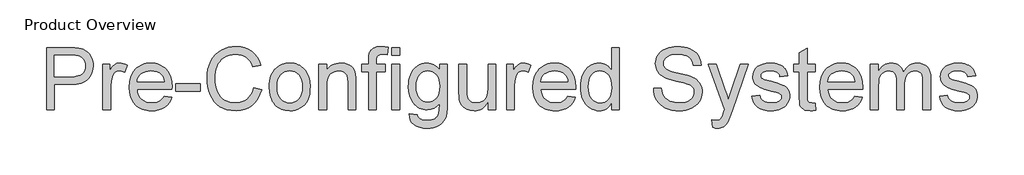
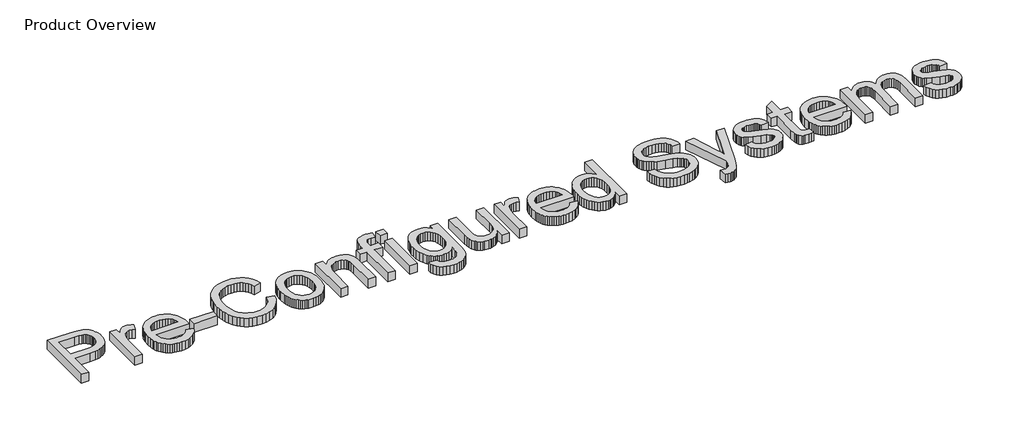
# One storey, part 7 of 12: 1 proxy.
"""IFC4 building model written with IfcOpenShell, lengths in millimetres."""

from ifc_helpers import new_model, si_unit, origin, origin_with_axes, place, context, project, spatial, polyline, outline, extrude, element, save

model = new_model("IFC4")

# Units and contexts
model_context = context("Model", 3, world=origin())
ifc_project = project(units=[si_unit("LENGTHUNIT", "METRE", prefix="MILLI")], contexts=[model_context])

# Site, building, storey
site = spatial("IfcSite", under=ifc_project)
building = spatial("IfcBuilding", under=site)
storey = spatial("IfcBuildingStorey", under=building, Name="Product Overview", Elevation=0.0)

# Proxy
placement = place(None, origin())
element("IfcBuildingElementProxy", 1, Name="1000mm", ObjectType="1000mm", at=placement, inside=storey, context=model_context, shape_type="SweptSolid", body=[
    extrude(outline(polyline([(-16820.7783514, -8842.1412799), (-16820.7783514, -7862.7473405), (-16457.8096014, -7862.7473405), (-16373.28427, -7865.0786615), (-16311.4743742, -7872.0726246), (-16277.4086929, -7879.4177802), (-16246.2272743, -7889.4977548), (-16217.9301181, -7902.3125482), (-16192.5172245, -7917.8621606), (-16169.7195949, -7936.4678957), (-16149.2682307, -7958.4510573), (-16131.1631319, -7983.8116457), (-16115.4042984, -8012.5496606), (-16102.6418102, -8043.7161349), (-16093.5257473, -8076.3621014), (-16088.0561095, -8110.4875601), (-16086.2328969, -8146.0925109), (-16091.1570653, -8206.2136935), (-16105.9295707, -8261.5227903), (-16130.5504129, -8312.0198014), (-16165.019592, -8357.7047269), (-16186.6982622, -8377.9917031), (-16212.3409254, -8395.5737491), (-16241.9475816, -8410.450865), (-16275.5182307, -8422.6230507), (-16313.0528728, -8432.0903063), (-16354.5515078, -8438.8526317), (-16449.4407567, -8444.262492), (-16698.354109, -8444.262492), (-16698.354109, -8842.1412799), (-16820.7783514, -8842.1412799)]), holes=[polyline([(-16698.354109, -8321.8382496), (-16442.2674613, -8321.8382496), (-16383.3866611, -8319.0287089), (-16333.7115901, -8310.6000867), (-16293.2422482, -8296.5523831), (-16261.9786355, -8276.8855981), (-16238.6504809, -8252.1227844), (-16221.9875134, -8222.7869948), (-16211.9897328, -8188.8782295), (-16208.6571393, -8150.3964882), (-16210.6223234, -8121.8228613), (-16216.5178756, -8095.4012231), (-16226.3437959, -8071.1315734), (-16240.1000844, -8049.0139125), (-16257.0544671, -8029.7655697), (-16276.4746701, -8014.1038746), (-16298.3606934, -8002.0288272), (-16322.712537, -7993.5404276), (-16369.9367321, -7987.2637941), (-16445.1367795, -7985.1715829), (-16698.354109, -7985.1715829), (-16698.354109, -8321.8382496)])]), origin_with_axes(), (0.0, 0.0, 1.0), 150.0),
    extrude(outline(polyline([(-15933.2025939, -8842.1412799), (-15933.2025939, -8122.8988556), (-15826.0813817, -8122.8988556), (-15826.0813817, -8229.3027382), (-15786.5087018, -8167.6123973), (-15767.8880224, -8146.2718433), (-15750.0444499, -8131.2677003), (-15713.4606431, -8113.5137941), (-15673.5292984, -8107.5958253), (-15643.1623476, -8109.9570351), (-15612.556287, -8117.0406644), (-15581.7111166, -8128.8467131), (-15550.6268363, -8145.3751814), (-15591.5146204, -8255.1266019), (-15634.5543931, -8236.2967013), (-15677.5941658, -8230.0200678), (-15714.1480839, -8236.0575914), (-15746.816467, -8254.1701625), (-15773.2082165, -8282.9828992), (-15790.932234, -8321.12092), (-15805.8168221, -8389.5063367), (-15810.7783514, -8464.1086094), (-15810.7783514, -8842.1412799), (-15933.2025939, -8842.1412799)])), origin_with_axes(), (0.0, 0.0, 1.0), 150.0),
    extrude(outline(polyline([(-14970.5463439, -8627.8988556), (-14850.5131999, -8643.2018859), (-14868.9171861, -8691.2779099), (-14893.7621938, -8733.6451861), (-14925.048223, -8770.3037148), (-14962.7752738, -8801.2534958), (-15006.5547926, -8825.8369771), (-15055.998226, -8843.3966066), (-15111.1055739, -8853.9323843), (-15171.8768363, -8857.4443102), (-15210.8928386, -8855.9293251), (-15247.8390463, -8851.38437), (-15282.7154593, -8843.8094447), (-15315.5220778, -8833.2045493), (-15346.2589016, -8819.5696838), (-15374.9259307, -8802.9048482), (-15401.5231653, -8783.2100425), (-15426.0506052, -8760.4852666), (-15448.0748639, -8735.0256719), (-15467.1625548, -8707.1264095), (-15483.3136778, -8676.7874794), (-15496.5282331, -8644.0088817), (-15506.8062205, -8608.7906163), (-15514.14764, -8571.1326832), (-15520.0207757, -8488.497814), (-15514.0878626, -8403.0608762), (-15506.6717212, -8364.1420123), (-15496.2891232, -8327.7562183), (-15482.9400687, -8293.9034943), (-15466.6245576, -8262.5838403), (-15447.34259, -8233.7972561), (-15425.0941658, -8207.543742), (-15400.4807958, -8184.118449), (-15374.1039906, -8163.8165285), (-15345.9637503, -8146.6379803), (-15316.0600749, -8132.5828045), (-15284.3929644, -8121.6510011), (-15250.9624187, -8113.8425701), (-15215.7684378, -8109.1575115), (-15178.8110219, -8107.5958253), (-15143.0622315, -8109.1537754), (-15108.9834739, -8113.8276258), (-15076.5747492, -8121.6173763), (-15045.8360574, -8132.523027), (-15016.7673984, -8146.544578), (-14989.3687722, -8163.6820292), (-14963.6401789, -8183.9353806), (-14939.5816185, -8207.3046322), (-14917.8095459, -8233.4983688), (-14898.9404164, -8262.2251755), (-14882.9742299, -8293.4850521), (-14869.9109864, -8327.2779986), (-14859.7506859, -8363.6040151), (-14852.4933284, -8402.4631016), (-14846.6874423, -8487.7804844), (-14847.4047719, -8520.7776435), (-15397.5965333, -8520.7776435), (-15390.5054318, -8569.6307744), (-15376.4054229, -8612.416493), (-15355.2965066, -8649.1347991), (-15327.1786829, -8679.7856928), (-15293.6061657, -8703.9507318), (-15256.1331691, -8721.211474), (-15214.7596932, -8731.5679193), (-15169.4857378, -8735.0200678), (-15135.6218055, -8733.4210207), (-15104.3283041, -8728.6238793), (-15075.6052335, -8720.6286438), (-15049.4525939, -8709.435314), (-15025.870385, -8694.7450027), (-15004.8586071, -8676.2588225), (-14986.41726, -8653.9767735), (-14970.5463439, -8627.8988556)]), holes=[polyline([(-15397.5965333, -8398.3534011), (-14969.1116848, -8398.3534011), (-14975.4032627, -8363.7123618), (-14985.6700418, -8333.6741871), (-14999.9120221, -8308.2388769), (-15018.1292037, -8287.4064314), (-15051.5149163, -8262.2998973), (-15089.5034935, -8244.3666587), (-15132.0949352, -8233.6067155), (-15179.2892416, -8230.0200678), (-15222.3364865, -8232.8819138), (-15261.812028, -8241.4674518), (-15297.7158662, -8255.7766818), (-15330.0480011, -8275.8096037), (-15357.1794967, -8300.6396671), (-15377.4814172, -8329.3403211), (-15390.9537628, -8361.9115657), (-15397.5965333, -8398.3534011)])]), origin_with_axes(), (0.0, 0.0, 1.0), 150.0),
    extrude(outline(polyline([(-14785.4753211, -8551.3837041), (-14785.4753211, -8428.9594617), (-14402.8995636, -8428.9594617), (-14402.8995636, -8551.3837041), (-14785.4753211, -8551.3837041)])), origin_with_axes(), (0.0, 0.0, 1.0), 150.0),
    extrude(outline(polyline([(-13561.2328969, -8493.9973405), (-13438.8086545, -8525.5598405), (-13463.033471, -8601.6939107), (-13495.2983562, -8668.2187538), (-13535.60331, -8725.13437), (-13583.9483325, -8772.440759), (-13639.242485, -8809.6298127), (-13700.3948287, -8836.1934224), (-13767.4053637, -8852.1315882), (-13840.2740901, -8857.4443102), (-13914.9286681, -8853.4242759), (-13982.2754513, -8841.3641729), (-14042.3144399, -8821.2640012), (-14095.0456336, -8793.1237609), (-14141.1938344, -8757.3618942), (-14181.4838439, -8714.3968433), (-14215.915662, -8664.2286082), (-14244.4892889, -8606.857189), (-14266.9282538, -8544.7633502), (-14282.9560858, -8480.4278566), (-14292.572785, -8413.8507082), (-14295.7783514, -8345.0319049), (-14292.1543428, -8271.1917948), (-14281.2823169, -8202.2235479), (-14263.1622737, -8138.1271641), (-14237.7942132, -8078.9026435), (-14205.7460213, -8025.528842), (-14167.5855839, -7978.9846156), (-14123.312901, -7939.2699642), (-14072.9279726, -7906.3848878), (-14018.1419286, -7880.5983851), (-13960.6658988, -7862.1794546), (-13900.4998832, -7851.1280963), (-13837.6438817, -7847.4443102), (-13767.622057, -7852.2115628), (-13703.4135905, -7866.5133206), (-13645.0184822, -7890.3495836), (-13592.4367321, -7923.7203519), (-13546.5351134, -7965.7439077), (-13508.1803993, -8015.5385337), (-13477.3725897, -8073.1042297), (-13454.1116848, -8138.4409958), (-13576.5359272, -8167.6123973), (-13595.8141587, -8119.4691238), (-13618.9779253, -8078.3347576), (-13646.0272269, -8044.2092989), (-13676.9620636, -8017.0927477), (-13711.9617676, -7996.4321623), (-13751.2056715, -7981.6746014), (-13794.6937752, -7972.8200648), (-13842.4260787, -7969.8685526), (-13897.346622, -7973.1413687), (-13947.5746346, -7982.9598168), (-13993.1101163, -7999.3238971), (-14033.9530673, -8022.2336094), (-14069.5879069, -8050.6577927), (-14099.4990546, -8083.5652856), (-14123.6865102, -8120.9560881), (-14142.1502738, -8162.8302003), (-14155.8019517, -8207.2896878), (-14165.5531502, -8252.4366161), (-14171.4038693, -8298.2709851), (-14173.354109, -8344.792795), (-14171.0452045, -8403.255153), (-14164.1184911, -8457.8917534), (-14152.5739687, -8508.7025962), (-14136.4116374, -8555.6876814), (-14115.3699708, -8597.9129862), (-14089.1874423, -8634.4444877), (-14057.8640522, -8665.282186), (-14021.3998003, -8690.426081), (-13981.565594, -8709.9359502), (-13940.1323405, -8723.8715711), (-13897.10004, -8732.2329436), (-13852.4686923, -8735.0200678), (-13799.2443345, -8731.2241989), (-13750.2791208, -8719.8365924), (-13705.5730514, -8700.8572482), (-13665.1261261, -8674.2861662), (-13629.8947843, -8640.2429016), (-13600.8354655, -8598.847009), (-13577.9481697, -8550.0984887), (-13561.2328969, -8493.9973405)])), origin_with_axes(), (0.0, 0.0, 1.0), 150.0),
    extrude(outline(polyline([(-13316.384412, -8482.5200678), (-13314.7293236, -8434.3356972), (-13309.7640581, -8389.3718374), (-13301.4886157, -8347.6284884), (-13289.9029963, -8309.1056501), (-13275.0072, -8273.8033227), (-13256.8012267, -8241.721506), (-13235.2850764, -8212.8602), (-13210.4587492, -8187.2194049), (-13163.80244, -8152.3840888), (-13112.3041564, -8127.5017202), (-13055.9638983, -8112.5722991), (-12994.7816658, -8107.5958253), (-12927.2406058, -8113.6557656), (-12895.8966672, -8121.2306908), (-12866.1704561, -8131.8355862), (-12838.0619726, -8145.4704517), (-12811.5712166, -8162.1352873), (-12786.6981882, -8181.8300931), (-12763.4428874, -8204.5548689), (-12742.3993527, -8229.9509501), (-12724.1616226, -8257.6596718), (-12708.7296972, -8287.6810341), (-12696.1035763, -8320.015037), (-12686.2832601, -8354.6616804), (-12679.2687486, -8391.6209644), (-12673.6571393, -8472.4774541), (-12676.137904, -8538.008497), (-12683.580198, -8596.1570233), (-12695.9840214, -8646.923033), (-12713.3493742, -8690.3065261), (-12735.459563, -8727.7795227), (-12762.0978945, -8760.8140427), (-12793.2643688, -8789.4100861), (-12828.9589859, -8813.567653), (-12867.7919197, -8832.7636905), (-12908.3733443, -8846.4751459), (-12950.7032597, -8854.7020191), (-12994.7816658, -8857.4443102), (-13063.309054, -8851.4067865), (-13094.9892408, -8843.8598819), (-13124.9470896, -8833.2942155), (-13153.1826002, -8819.7097872), (-13179.6957727, -8803.1065971), (-13204.4866071, -8783.4846452), (-13227.5551033, -8760.8439314), (-13248.3744726, -8735.3637882), (-13266.4179259, -8707.2235479), (-13281.6854633, -8676.4232105), (-13294.1770849, -8642.9627761), (-13303.8927905, -8606.8422446), (-13310.8325802, -8568.0616161), (-13316.384412, -8482.5200678)]), holes=[polyline([(-13193.9601696, -8482.2809579), (-13190.418355, -8541.6623943), (-13179.7929111, -8593.078484), (-13162.0838379, -8636.5292267), (-13137.2911355, -8672.0146227), (-13107.1334059, -8699.5795049), (-13073.3292511, -8719.2687065), (-13035.878671, -8731.0822274), (-12994.7816658, -8735.0200678), (-12953.8938817, -8731.0598109), (-12916.5927454, -8719.1790403), (-12882.8782567, -8699.377756), (-12852.7504158, -8671.6559579), (-12827.9577134, -8635.8193694), (-12810.2486403, -8591.6737136), (-12799.6231964, -8539.2189906), (-12796.0813817, -8478.4552003), (-12799.6456129, -8420.956754), (-12810.3383065, -8370.8856573), (-12828.1594623, -8328.2419102), (-12853.1090806, -8293.0255128), (-12883.3490042, -8265.4606306), (-12917.0410763, -8245.771429), (-12954.1852969, -8233.9579081), (-12994.7816658, -8230.0200678), (-13035.878671, -8233.9429637), (-13073.3292511, -8245.7116516), (-13107.1334059, -8265.3261313), (-13137.2911355, -8292.786403), (-13162.0838379, -8328.1671884), (-13179.7929111, -8371.5432093), (-13190.418355, -8422.9144658), (-13193.9601696, -8482.2809579)])]), origin_with_axes(), (0.0, 0.0, 1.0), 150.0),
    extrude(outline(polyline([(-12535.9298666, -8842.1412799), (-12535.9298666, -8122.8988556), (-12413.5056242, -8122.8988556), (-12413.5056242, -8223.324992), (-12393.3083141, -8196.2009686), (-12370.9739599, -8172.6934816), (-12346.5025613, -8152.8025311), (-12319.8941185, -8136.528117), (-12291.1486314, -8123.8702394), (-12260.2661, -8114.8288983), (-12227.2465244, -8109.4040936), (-12192.0899045, -8107.5958253), (-12131.7445565, -8113.4241279), (-12076.4802927, -8130.9090356), (-12051.7772565, -8143.477247), (-12030.3918694, -8157.868671), (-12012.3241315, -8174.0833076), (-11997.5740427, -8192.1211568), (-11975.3069381, -8233.5768268), (-11960.870681, -8282.1460147), (-11956.0287065, -8328.5931028), (-11954.4147151, -8400.5053897), (-11954.4147151, -8842.1412799), (-12076.8389575, -8842.1412799), (-12076.8389575, -8417.0039693), (-12080.3658278, -8353.6996369), (-12090.9464386, -8308.6872079), (-12099.3526442, -8291.6581034), (-12110.4637799, -8276.4372671), (-12140.800842, -8251.4203992), (-12179.6860811, -8235.3701506), (-12224.8479537, -8230.0200678), (-12262.022063, -8233.0238852), (-12296.5510195, -8242.0353376), (-12328.4348234, -8257.054425), (-12357.6734745, -8278.0811473), (-12382.10004, -8307.506603), (-12399.5475868, -8347.7218907), (-12410.0161148, -8398.7270102), (-12413.5056242, -8460.5219617), (-12413.5056242, -8842.1412799), (-12535.9298666, -8842.1412799)])), origin_with_axes(), (0.0, 0.0, 1.0), 150.0),
    extrude(outline(polyline([(-11755.4753211, -8842.1412799), (-11755.4753211, -8245.3230981), (-11862.5965333, -8245.3230981), (-11862.5965333, -8122.8988556), (-11755.4753211, -8122.8988556), (-11755.4753211, -8050.4485715), (-11752.2473382, -7990.491777), (-11742.5633893, -7948.3486662), (-11731.9230011, -7926.9333904), (-11717.9350749, -7907.6402145), (-11700.5996109, -7890.4691385), (-11679.916609, -7875.4201625), (-11655.4377383, -7863.1807271), (-11626.7146677, -7854.4382733), (-11593.7473974, -7849.192801), (-11556.5359272, -7847.4443102), (-11503.3937634, -7850.7918481), (-11444.8716279, -7860.8344617), (-11462.8048666, -7975.607189), (-11533.3422719, -7969.8685526), (-11579.8790261, -7974.9496369), (-11597.1621849, -7981.3009922), (-11610.455198, -7990.1928897), (-11620.3408958, -8002.55188), (-11627.4021085, -8019.3045138), (-11631.6388362, -8040.450791), (-11633.0510787, -8065.9907117), (-11633.0510787, -8122.8988556), (-11495.323806, -8122.8988556), (-11495.323806, -8245.3230981), (-11633.0510787, -8245.3230981), (-11633.0510787, -8842.1412799), (-11755.4753211, -8842.1412799)])), origin_with_axes(), (0.0, 0.0, 1.0), 150.0),
    extrude(outline(polyline([(-11388.2025939, -8842.1412799), (-11388.2025939, -8122.8988556), (-11265.7783514, -8122.8988556), (-11265.7783514, -8842.1412799), (-11388.2025939, -8842.1412799)])), origin_with_axes(), (0.0, 0.0, 1.0), 150.0),
    extrude(outline(polyline([(-11388.2025939, -7985.1715829), (-11388.2025939, -7862.7473405), (-11265.7783514, -7862.7473405), (-11265.7783514, -7985.1715829), (-11388.2025939, -7985.1715829)])), origin_with_axes(), (0.0, 0.0, 1.0), 150.0),
    extrude(outline(polyline([(-11112.7480484, -8903.3534011), (-10990.323806, -8918.6564314), (-10985.1530555, -8939.2796558), (-10976.8140995, -8956.9140072), (-10965.3069381, -8971.5594854), (-10950.6315711, -8983.2160905), (-10926.8849743, -8995.1416942), (-10899.1631762, -9003.6599825), (-10867.466177, -9008.7709555), (-10831.7939764, -9010.4746132), (-10793.5662894, -9008.5467901), (-10759.941467, -9002.7633206), (-10730.9195091, -8993.1242048), (-10706.5004158, -8979.6294428), (-10686.1760787, -8962.6526435), (-10669.4383893, -8942.5674162), (-10656.2873476, -8919.3737609), (-10646.7229537, -8893.0716776), (-10640.0876554, -8840.4077335), (-10638.354109, -8750.3230981), (-10679.0924494, -8790.4935526), (-10724.5532094, -8819.1867344), (-10774.7363888, -8836.4026435), (-10829.6419878, -8842.1412799), (-10864.2064372, -8840.471247), (-10896.7646056, -8835.4611485), (-10927.3164929, -8827.1109843), (-10955.8620991, -8815.4207543), (-10982.4014242, -8800.3904587), (-11006.9344683, -8782.0200974), (-11029.4612313, -8760.3096703), (-11049.9817132, -8735.2591776), (-11084.1370606, -8679.1580294), (-11108.5337373, -8617.7366871), (-11123.1717434, -8550.9951506), (-11128.0510787, -8478.93342), (-11125.8617292, -8428.5186029), (-11119.2936805, -8380.0913864), (-11108.3469328, -8333.6517705), (-11093.0214859, -8289.1997553), (-11073.5489776, -8248.2148328), (-11050.1610456, -8212.1764953), (-11022.8576897, -8181.0847428), (-10991.6389101, -8154.9395753), (-10957.005343, -8134.2266847), (-10919.4576246, -8119.4317628), (-10878.995755, -8110.5548097), (-10835.619734, -8107.5958253), (-10806.3325137, -8109.2695943), (-10778.3678697, -8114.2909011), (-10751.725802, -8122.6597458), (-10726.4063107, -8134.3761284), (-10702.4093958, -8149.4400488), (-10679.7350572, -8167.8515072), (-10658.3832949, -8189.6105034), (-10638.354109, -8214.7170375), (-10638.354109, -8122.8988556), (-10515.9298666, -8122.8988556), (-10515.9298666, -8743.8671322), (-10518.0220778, -8821.6749713), (-10524.2987113, -8887.2433751), (-10534.7597672, -8940.5723434), (-10549.4052454, -8981.6618765), (-10568.5863385, -9014.801007), (-10592.6542392, -9044.278768), (-10621.6089474, -9070.0951595), (-10655.4504632, -9092.2501814), (-10693.835066, -9110.0339764), (-10736.4190356, -9122.7366871), (-10783.2023719, -9130.3583135), (-10834.1850749, -9132.8988556), (-10894.164286, -9129.3196801), (-10948.091029, -9118.5821535), (-10995.965304, -9100.6862757), (-11037.7871109, -9075.6320469), (-11071.5688492, -9043.3895783), (-11095.3229182, -9003.9289811), (-11109.0493179, -8957.2502554), (-11112.7480484, -8903.3534011)]), holes=[polyline([(-11005.6268363, -8470.5645753), (-11002.3614924, -8531.0967279), (-10992.5654608, -8582.8565379), (-10976.2387415, -8625.8440054), (-10953.3813344, -8660.0591303), (-10925.5922867, -8686.1594647), (-10894.4706455, -8704.8025607), (-10860.0164107, -8715.9884183), (-10822.2295825, -8719.7170375), (-10784.8163634, -8716.0108348), (-10750.5265167, -8704.8922269), (-10719.3600424, -8686.3612136), (-10691.3169404, -8660.417795), (-10668.1457017, -8626.5389184), (-10651.5948169, -8584.2015308), (-10641.664286, -8533.4056324), (-10638.354109, -8474.1512231), (-10641.7614243, -8417.3701062), (-10651.9833704, -8368.0163391), (-10669.0199471, -8326.0899216), (-10692.8711545, -8291.5908537), (-10721.5195032, -8264.6536349), (-10752.9475039, -8245.4127643), (-10787.1551566, -8233.8682419), (-10824.1424613, -8230.0200678), (-10860.5095748, -8233.8084644), (-10894.0522032, -8245.1736544), (-10924.7703466, -8264.1156377), (-10952.6640048, -8290.6344144), (-10975.8352436, -8324.6104294), (-10992.3861284, -8365.9241279), (-11002.3166593, -8414.5755099), (-11005.6268363, -8470.5645753)])]), origin_with_axes(), (0.0, 0.0, 1.0), 150.0),
    extrude(outline(polyline([(-9873.2025939, -8842.1412799), (-9873.2025939, -8718.5214882), (-9894.4385373, -8751.0815246), (-9917.4976933, -8779.3002228), (-9942.3800619, -8803.1775829), (-9969.0856431, -8822.7136047), (-9997.6144369, -8837.9082883), (-10027.9664433, -8848.7616338), (-10060.1416623, -8855.2736411), (-10094.1400939, -8857.4443102), (-10153.7681123, -8851.347009), (-10182.0353797, -8843.7253826), (-10209.2714859, -8833.0551056), (-10255.8381289, -8805.5574731), (-10273.9656443, -8789.4773358), (-10288.6559556, -8771.8429844), (-10310.7437279, -8730.8954229), (-10325.1202075, -8681.6985715), (-10330.5001791, -8635.3112609), (-10332.2935029, -8567.8822837), (-10332.2935029, -8122.8988556), (-10209.8692605, -8122.8988556), (-10209.8692605, -8510.2568102), (-10208.0161592, -8587.7284011), (-10202.4568552, -8635.0721511), (-10195.1266439, -8657.1375068), (-10184.6132828, -8676.7071535), (-10170.9167718, -8693.7810911), (-10154.0371109, -8708.3593197), (-10134.4824086, -8720.023397), (-10112.7607733, -8728.3548807), (-10088.872205, -8733.353771), (-10062.8167037, -8735.0200678), (-10035.9840954, -8733.3164101), (-10010.0033159, -8728.2054371), (-9984.8743653, -8719.6871487), (-9960.5972435, -8707.761545), (-9938.4870547, -8692.8993735), (-9919.858903, -8675.5713817), (-9904.7127886, -8655.7775695), (-9893.0487113, -8633.5179371), (-9884.3660349, -8607.3727696), (-9878.1641232, -8575.9223523), (-9873.2025939, -8497.1057685), (-9873.2025939, -8122.8988556), (-9750.7783514, -8122.8988556), (-9750.7783514, -8842.1412799), (-9873.2025939, -8842.1412799)])), origin_with_axes(), (0.0, 0.0, 1.0), 150.0),
    extrude(outline(polyline([(-9582.4450181, -8842.1412799), (-9582.4450181, -8122.8988556), (-9475.323806, -8122.8988556), (-9475.323806, -8229.3027382), (-9435.7511261, -8167.6123973), (-9417.1304466, -8146.2718433), (-9399.2868742, -8131.2677003), (-9362.7030673, -8113.5137941), (-9322.7717226, -8107.5958253), (-9292.4047719, -8109.9570351), (-9261.7987113, -8117.0406644), (-9230.9535408, -8128.8467131), (-9199.8692605, -8145.3751814), (-9240.7570446, -8255.1266019), (-9283.7968173, -8236.2967013), (-9326.8365901, -8230.0200678), (-9363.3905082, -8236.0575914), (-9396.0588912, -8254.1701625), (-9422.4506407, -8282.9828992), (-9440.1746583, -8321.12092), (-9455.0592463, -8389.5063367), (-9460.0207757, -8464.1086094), (-9460.0207757, -8842.1412799), (-9582.4450181, -8842.1412799)])), origin_with_axes(), (0.0, 0.0, 1.0), 150.0),
    extrude(outline(polyline([(-8619.7887681, -8627.8988556), (-8499.7556242, -8643.2018859), (-8518.1596103, -8691.2779099), (-8543.004618, -8733.6451861), (-8574.2906472, -8770.3037148), (-8612.017698, -8801.2534958), (-8655.7972168, -8825.8369771), (-8705.2406502, -8843.3966066), (-8760.3479981, -8853.9323843), (-8821.1192605, -8857.4443102), (-8860.1352628, -8855.9293251), (-8897.0814705, -8851.38437), (-8931.9578836, -8843.8094447), (-8964.764502, -8833.2045493), (-8995.5013258, -8819.5696838), (-9024.168355, -8802.9048482), (-9050.7655895, -8783.2100425), (-9075.2930295, -8760.4852666), (-9097.3172882, -8735.0256719), (-9116.404979, -8707.1264095), (-9132.5561021, -8676.7874794), (-9145.7706573, -8644.0088817), (-9156.0486447, -8608.7906163), (-9163.3900643, -8571.1326832), (-9169.2631999, -8488.497814), (-9163.3302868, -8403.0608762), (-9155.9141454, -8364.1420123), (-9145.5315475, -8327.7562183), (-9132.1824929, -8293.9034943), (-9115.8669819, -8262.5838403), (-9096.5850143, -8233.7972561), (-9074.3365901, -8207.543742), (-9049.72322, -8184.118449), (-9023.3464149, -8163.8165285), (-8995.2061746, -8146.6379803), (-8965.3024992, -8132.5828045), (-8933.6353886, -8121.6510011), (-8900.2048429, -8113.8425701), (-8865.0108621, -8109.1575115), (-8828.0534461, -8107.5958253), (-8792.3046557, -8109.1537754), (-8758.2258982, -8113.8276258), (-8725.8171735, -8121.6173763), (-8695.0784816, -8132.523027), (-8666.0098226, -8146.544578), (-8638.6111965, -8163.6820292), (-8612.8826032, -8183.9353806), (-8588.8240427, -8207.3046322), (-8567.0519702, -8233.4983688), (-8548.1828407, -8262.2251755), (-8532.2166541, -8293.4850521), (-8519.1534106, -8327.2779986), (-8508.9931101, -8363.6040151), (-8501.7357526, -8402.4631016), (-8495.9298666, -8487.7804844), (-8496.6471961, -8520.7776435), (-9046.8389575, -8520.7776435), (-9039.747856, -8569.6307744), (-9025.6478472, -8612.416493), (-9004.5389309, -8649.1347991), (-8976.4211071, -8679.7856928), (-8942.84859, -8703.9507318), (-8905.3755934, -8721.211474), (-8864.0021174, -8731.5679193), (-8818.728162, -8735.0200678), (-8784.8642297, -8733.4210207), (-8753.5707283, -8728.6238793), (-8724.8476578, -8720.6286438), (-8698.6950181, -8709.435314), (-8675.1128093, -8694.7450027), (-8654.1010314, -8676.2588225), (-8635.6596843, -8653.9767735), (-8619.7887681, -8627.8988556)]), holes=[polyline([(-9046.8389575, -8398.3534011), (-8618.354109, -8398.3534011), (-8624.6456869, -8363.7123618), (-8634.912466, -8333.6741871), (-8649.1544464, -8308.2388769), (-8667.3716279, -8287.4064314), (-8700.7573405, -8262.2998973), (-8738.7459177, -8244.3666587), (-8781.3373595, -8233.6067155), (-8828.5316658, -8230.0200678), (-8871.5789107, -8232.8819138), (-8911.0544523, -8241.4674518), (-8946.9582905, -8255.7766818), (-8979.2904253, -8275.8096037), (-9006.4219209, -8300.6396671), (-9026.7238415, -8329.3403211), (-9040.196187, -8361.9115657), (-9046.8389575, -8398.3534011)])]), origin_with_axes(), (0.0, 0.0, 1.0), 150.0),
    extrude(outline(polyline([(-7929.7177454, -8842.1412799), (-7929.7177454, -8726.6512231), (-7947.0644177, -8757.3058529), (-7966.3463853, -8783.8731987), (-7987.5636482, -8806.3532605), (-8010.7162065, -8824.7460384), (-8035.8040602, -8839.0515323), (-8062.8272092, -8849.2697422), (-8091.7856535, -8855.4006682), (-8122.6793931, -8857.4443102), (-8163.0889575, -8854.4853258), (-8201.8247529, -8845.6083727), (-8238.8867795, -8830.8134508), (-8274.275037, -8810.1005602), (-8306.8836426, -8784.089892), (-8335.6067132, -8753.4016374), (-8360.4442487, -8718.0357963), (-8381.3962492, -8677.9923689), (-8398.029328, -8634.0335177), (-8409.9100986, -8586.9214054), (-8417.0385609, -8536.6560319), (-8419.4147151, -8483.2373973), (-8417.2253655, -8430.7976187), (-8410.6573169, -8380.8386047), (-8399.7105691, -8333.3603554), (-8384.3851223, -8288.3628708), (-8364.6884485, -8247.161255), (-8340.62802, -8211.0706123), (-8312.2038368, -8180.0909425), (-8279.4158988, -8154.2222458), (-8243.4223944, -8133.8231868), (-8205.3815119, -8119.2524305), (-8165.2932514, -8110.5099766), (-8123.1576128, -8107.5958253), (-8092.3423311, -8109.6805643), (-8063.2605958, -8115.9347813), (-8035.9124068, -8126.3584763), (-8010.2977643, -8140.9516492), (-7986.7006111, -8158.8774157), (-7965.4048903, -8179.2988912), (-7946.4106017, -8202.2160757), (-7929.7177454, -8227.6289693), (-7929.7177454, -7862.7473405), (-7807.2935029, -7862.7473405), (-7807.2935029, -8842.1412799), (-7929.7177454, -8842.1412799)]), holes=[polyline([(-8296.9904726, -8482.7591776), (-8293.5383242, -8542.1256697), (-8283.1818789, -8593.4969262), (-8265.9211367, -8636.8729471), (-8241.7560976, -8672.2537325), (-8212.8985278, -8699.7140042), (-8181.5601933, -8719.328484), (-8147.7410941, -8731.0971718), (-8111.4412302, -8735.0200678), (-8074.9695061, -8731.2765042), (-8041.3521559, -8720.0458135), (-8010.5891794, -8701.3279957), (-7982.6805768, -8675.1230507), (-7959.5093381, -8641.2217575), (-7942.9584532, -8599.4148949), (-7933.0279223, -8549.702463), (-7929.7177454, -8492.0844617), (-7933.0876998, -8428.9146286), (-7943.1975631, -8374.7413036), (-7960.0473352, -8329.5644866), (-7983.6370162, -8293.3841776), (-8012.1583378, -8265.6623796), (-8043.8030318, -8245.8610952), (-8078.5710982, -8233.9803246), (-8116.462537, -8230.0200678), (-8153.4797305, -8233.8234088), (-8187.2988297, -8245.2334319), (-8217.9198346, -8264.250137), (-8245.3427454, -8290.8735242), (-8267.9386261, -8325.6864237), (-8284.0785408, -8369.2716658), (-8293.7624897, -8421.6292504), (-8296.9904726, -8482.7591776)])]), origin_with_axes(), (0.0, 0.0, 1.0), 150.0),
    extrude(outline(polyline([(-7271.6874423, -8505.4746132), (-7149.2631999, -8505.4746132), (-7143.6590628, -8541.1094528), (-7135.2154963, -8573.4116989), (-7123.9325003, -8602.3813515), (-7109.8100749, -8628.0184106), (-7092.1308905, -8650.8384567), (-7070.1776175, -8671.3570706), (-7043.950256, -8689.5742522), (-7013.448806, -8705.4900015), (-6979.7940948, -8718.4094055), (-6944.1069499, -8727.6375512), (-6906.3873713, -8733.1744386), (-6866.635359, -8735.0200678), (-6798.4292747, -8729.4308751), (-6767.5093824, -8722.4443842), (-6738.7115901, -8712.6632969), (-6712.745755, -8700.4388059), (-6690.3217345, -8686.1221037), (-6671.4395286, -8669.7131904), (-6656.0991374, -8651.2120659), (-6644.225839, -8631.4182537), (-6635.7449116, -8611.1312775), (-6630.6563551, -8590.3511372), (-6628.9601696, -8569.0778329), (-6634.0412539, -8528.1003826), (-6649.2845067, -8492.6822363), (-6662.1067724, -8476.968236), (-6680.2492321, -8462.4647292), (-6703.711886, -8449.1717161), (-6732.494734, -8437.0891965), (-6797.1440593, -8417.8707425), (-6910.7511261, -8390.3432212), (-7027.7655082, -8359.4083845), (-7070.4690327, -8344.5013799), (-7102.6367795, -8329.9679844), (-7135.3275791, -8310.4655874), (-7163.5799021, -8288.781313), (-7187.3937486, -8264.9151613), (-7206.7691185, -8238.8671322), (-7221.7807337, -8210.9062242), (-7232.5033159, -8181.3014361), (-7238.9368653, -8150.0527678), (-7241.0813817, -8117.1602193), (-7238.4287569, -8080.7034396), (-7230.4708822, -8045.4571535), (-7217.2077578, -8011.421361), (-7198.6393836, -7978.5960621), (-7174.9749808, -7948.3187775), (-7146.4237705, -7921.927028), (-7112.9857526, -7899.4208135), (-7074.6609272, -7880.800134), (-7032.7419819, -7866.2069611), (-6988.5216043, -7855.7832662), (-6941.9997944, -7849.5290492), (-6893.1765522, -7847.4443102), (-6839.9148334, -7849.6261876), (-6789.8810976, -7856.1718197), (-6743.0753448, -7867.0812065), (-6699.4975749, -7882.3543481), (-6659.9547837, -7901.8567451), (-6625.253967, -7925.4538983), (-6595.3951246, -7953.1458076), (-6570.3782567, -7984.9324731), (-6550.39764, -8019.887344), (-6535.6475512, -8057.0838698), (-6526.1279904, -8096.5220505), (-6521.8389575, -8138.2018859), (-6644.2631999, -8138.2018859), (-6652.4527122, -8099.1373144), (-6666.7395257, -8065.1538272), (-6687.1236403, -8036.2514243), (-6713.605056, -8012.4301056), (-6746.6769369, -7993.8094262), (-6786.8324471, -7980.5089409), (-6834.0715865, -7972.5286497), (-6888.3943552, -7969.8685526), (-6944.4506703, -7972.4987609), (-6992.3473618, -7980.3893859), (-7032.0844298, -7993.5404276), (-7063.6618742, -8011.9518859), (-7087.7223027, -8034.0844913), (-7104.908323, -8058.398974), (-7115.2199352, -8084.8953341), (-7118.6571393, -8113.5735715), (-7116.2212077, -8138.246719), (-7108.913413, -8160.6184342), (-7096.7337551, -8180.6887171), (-7079.682234, -8198.4575678), (-7052.8421535, -8215.2849233), (-7010.5794878, -8232.2916113), (-6952.8942368, -8249.4776317), (-6879.7864007, -8266.8429844), (-6744.8088912, -8299.6608111), (-6697.3156975, -8314.5005661), (-6663.1528779, -8328.2942155), (-6625.6201039, -8349.2013829), (-6593.3626909, -8372.7088698), (-6566.380639, -8398.8166764), (-6544.673948, -8427.5248026), (-6527.9885639, -8458.6838047), (-6516.0704324, -8492.1442392), (-6508.9195535, -8527.9061059), (-6506.5359272, -8565.9694049), (-6509.2782183, -8604.2643416), (-6517.5050915, -8641.4384508), (-6531.2165469, -8677.4917327), (-6550.4125844, -8712.4241871), (-6574.7569558, -8744.883349), (-6603.913413, -8773.5167534), (-6637.8819558, -8798.3244001), (-6676.6625844, -8819.3062894), (-6719.126999, -8835.9916735), (-6764.1469002, -8847.909805), (-6811.7222879, -8855.0606839), (-6861.853162, -8857.4443102), (-6924.4775258, -8854.8738793), (-6981.7966398, -8847.1625867), (-7033.810504, -8834.3104323), (-7080.5191185, -8816.3174162), (-7122.2064261, -8793.1536497), (-7159.1563699, -8764.7892439), (-7191.3689498, -8731.2241989), (-7218.8441658, -8692.4585147), (-7240.9767712, -8649.747518), (-7257.161519, -8604.3465356), (-7267.3984094, -8556.2555673), (-7271.6874423, -8505.4746132)])), origin_with_axes(), (0.0, 0.0, 1.0), 150.0),
    extrude(outline(polyline([(-6338.2025939, -9117.5958253), (-6353.5056242, -8999.71467), (-6320.1498003, -9007.7846274), (-6291.3370636, -9010.4746132), (-6258.6387918, -9007.0971866), (-6233.2333704, -8996.9649068), (-6213.4470304, -8980.7951033), (-6197.6060029, -8959.3051056), (-6184.0962965, -8927.6828282), (-6164.1306242, -8869.1606928), (-6154.5662302, -8839.5110715), (-6414.7177454, -8122.8988556), (-6285.5984272, -8122.8988556), (-6147.6320446, -8522.2123026), (-6122.2266232, -8600.1621132), (-6099.5709651, -8681.9376814), (-6051.5098855, -8540.8628708), (-5909.7177454, -8122.8988556), (-5781.5548666, -8122.8988556), (-6031.9028779, -8859.357189), (-6069.0844594, -8957.2726719), (-6096.9407567, -9019.0825678), (-6130.2368031, -9070.072743), (-6148.5436509, -9089.6946949), (-6167.9563817, -9105.4012231), (-6188.8934378, -9117.4314373), (-6211.7732615, -9126.0244475), (-6236.5958526, -9131.1802536), (-6263.3612113, -9132.8988556), (-6298.8092463, -9129.0730981), (-6338.2025939, -9117.5958253)])), origin_with_axes(), (0.0, 0.0, 1.0), 150.0),
    extrude(outline(polyline([(-5726.0813817, -8627.8988556), (-5603.6571393, -8612.5958253), (-5596.2596784, -8640.5119001), (-5584.349019, -8664.9608822), (-5567.9251613, -8685.9427714), (-5546.9881052, -8703.4575678), (-5521.4780733, -8717.2661615), (-5491.335288, -8727.1294428), (-5456.5597494, -8733.0474115), (-5417.1514575, -8735.0200678), (-5377.7879987, -8733.2117995), (-5343.8642889, -8727.7869948), (-5315.3803282, -8718.7456537), (-5292.3361166, -8706.0877761), (-5274.5523216, -8690.9939669), (-5261.8496109, -8674.644831), (-5254.2279845, -8657.0403684), (-5251.6874423, -8638.1805791), (-5254.2429288, -8621.6521108), (-5261.9093884, -8606.9767439), (-5274.6868209, -8594.1544783), (-5292.5752264, -8583.185314), (-5338.4245399, -8567.6431738), (-5418.5861166, -8548.2752761), (-5530.3101933, -8515.9655578), (-5602.9398098, -8488.378259), (-5627.8744837, -8474.5472488), (-5649.596119, -8458.2803069), (-5668.1047157, -8439.5774334), (-5683.4002738, -8418.4386284), (-5695.3781828, -8395.4990273), (-5703.933832, -8371.3937657), (-5709.0672216, -8346.1228436), (-5710.7783514, -8319.6862609), (-5705.2788249, -8272.2528448), (-5688.7802454, -8228.4658537), (-5662.7770493, -8190.0588343), (-5628.7636734, -8158.7653329), (-5594.9595186, -8139.0686591), (-5550.9334177, -8122.5401909), (-5500.0329087, -8111.3319167), (-5445.6055295, -8107.5958253), (-5404.4636912, -8109.0977341), (-5365.9221725, -8113.6034603), (-5329.9809734, -8121.113004), (-5296.6400939, -8131.6263651), (-5266.6915853, -8144.7026849), (-5240.9274992, -8159.9011047), (-5219.3478353, -8177.2216243), (-5201.9525939, -8196.6642439), (-5187.8451128, -8218.908932), (-5176.1287302, -8244.6356573), (-5166.8034461, -8273.8444197), (-5159.8692605, -8306.5352193), (-5282.2935029, -8321.8382496), (-5288.1292777, -8301.3868854), (-5297.7459769, -8283.3116752), (-5311.1436006, -8267.6126193), (-5328.3221488, -8254.2897174), (-5349.3563433, -8243.6717457), (-5374.3209059, -8236.0874802), (-5403.2158366, -8231.5369209), (-5436.0411355, -8230.0200678), (-5474.1193789, -8231.4696712), (-5506.339431, -8235.8184816), (-5532.7012918, -8243.0664989), (-5553.2049613, -8253.2137231), (-5568.5827134, -8265.2887704), (-5579.5668221, -8278.3202572), (-5586.1572873, -8292.3081833), (-5588.354109, -8307.2525488), (-5584.7076838, -8326.0824494), (-5573.7684083, -8342.8799162), (-5555.0580626, -8357.8840592), (-5528.0984272, -8369.8993291), (-5422.650984, -8395.9623026), (-5314.4836663, -8427.9432448), (-5242.9599329, -8453.5877761), (-5217.7936213, -8466.09621), (-5195.4966279, -8481.1451861), (-5176.0689528, -8498.7347044), (-5159.5105958, -8518.8647647), (-5146.2773601, -8541.565256), (-5136.8250489, -8566.8660668), (-5131.1536622, -8594.7671973), (-5129.2631999, -8625.2686473), (-5131.4824382, -8655.9045966), (-5138.140153, -8685.643884), (-5149.2363444, -8714.4865095), (-5164.7710124, -8742.4324731), (-5184.4901027, -8768.3684194), (-5208.1395612, -8791.1809934), (-5235.7193878, -8810.870195), (-5267.2295825, -8827.4360242), (-5301.8108443, -8840.5646493), (-5338.6038723, -8849.9422387), (-5377.6086663, -8855.5687923), (-5418.8252264, -8857.4443102), (-5484.7149341, -8853.8277737), (-5542.2656857, -8842.9781644), (-5591.4774814, -8824.8954821), (-5632.3503211, -8799.5797269), (-5665.7360337, -8767.1504537), (-5692.486448, -8727.7272174), (-5712.601564, -8681.310018), (-5726.0813817, -8627.8988556)])), origin_with_axes(), (0.0, 0.0, 1.0), 150.0),
    extrude(outline(polyline([(-4731.384412, -8740.0413746), (-4716.0813817, -8845.7279276), (-4764.5609035, -8854.5152145), (-4807.6604537, -8857.4443102), (-4866.421699, -8852.3632259), (-4890.1981845, -8846.0118706), (-4910.2385787, -8837.1199731), (-4941.2033041, -8813.6274305), (-4961.4080863, -8783.7984769), (-4967.8939409, -8762.7418658), (-4972.5266942, -8732.5691918), (-4976.2328969, -8644.8756549), (-4976.2328969, -8245.3230981), (-5068.0510787, -8245.3230981), (-5068.0510787, -8122.8988556), (-4976.2328969, -8122.8988556), (-4976.2328969, -7948.1095564), (-4853.8086545, -7876.137492), (-4853.8086545, -8122.8988556), (-4731.384412, -8122.8988556), (-4731.384412, -8245.3230981), (-4853.8086545, -8245.3230981), (-4853.8086545, -8641.2890072), (-4852.194663, -8681.5790166), (-4847.3526886, -8704.4140072), (-4838.8941777, -8717.0569404), (-4826.4305768, -8726.770778), (-4808.7663368, -8732.9577453), (-4784.7059083, -8735.0200678), (-4731.384412, -8740.0413746)])), origin_with_axes(), (0.0, 0.0, 1.0), 150.0),
    extrude(outline(polyline([(-4105.3948287, -8627.8988556), (-3985.3616848, -8643.2018859), (-4003.7656709, -8691.2779099), (-4028.6106786, -8733.6451861), (-4059.8967078, -8770.3037148), (-4097.6237586, -8801.2534958), (-4141.4032775, -8825.8369771), (-4190.8467108, -8843.3966066), (-4245.9540587, -8853.9323843), (-4306.7253211, -8857.4443102), (-4345.7413234, -8855.9293251), (-4382.6875311, -8851.38437), (-4417.5639442, -8843.8094447), (-4450.3705626, -8833.2045493), (-4481.1073864, -8819.5696838), (-4509.7744156, -8802.9048482), (-4536.3716501, -8783.2100425), (-4560.8990901, -8760.4852666), (-4582.9233488, -8735.0256719), (-4602.0110396, -8707.1264095), (-4618.1621627, -8676.7874794), (-4631.3767179, -8644.0088817), (-4641.6547053, -8608.7906163), (-4648.9961249, -8571.1326832), (-4654.8692605, -8488.497814), (-4648.9363474, -8403.0608762), (-4641.520206, -8364.1420123), (-4631.1376081, -8327.7562183), (-4617.7885536, -8293.9034943), (-4601.4730425, -8262.5838403), (-4582.1910749, -8233.7972561), (-4559.9426507, -8207.543742), (-4535.3292806, -8184.118449), (-4508.9524755, -8163.8165285), (-4480.8122352, -8146.6379803), (-4450.9085598, -8132.5828045), (-4419.2414492, -8121.6510011), (-4385.8109035, -8113.8425701), (-4350.6169227, -8109.1575115), (-4313.6595067, -8107.5958253), (-4277.9107163, -8109.1537754), (-4243.8319588, -8113.8276258), (-4211.4232341, -8121.6173763), (-4180.6845422, -8132.523027), (-4151.6158832, -8146.544578), (-4124.2172571, -8163.6820292), (-4098.4886638, -8183.9353806), (-4074.4301033, -8207.3046322), (-4052.6580308, -8233.4983688), (-4033.7889013, -8262.2251755), (-4017.8227147, -8293.4850521), (-4004.7594712, -8327.2779986), (-3994.5991707, -8363.6040151), (-3987.3418132, -8402.4631016), (-3981.5359272, -8487.7804844), (-3982.2532567, -8520.7776435), (-4532.4450181, -8520.7776435), (-4525.3539167, -8569.6307744), (-4511.2539078, -8612.416493), (-4490.1449915, -8649.1347991), (-4462.0271677, -8679.7856928), (-4428.4546506, -8703.9507318), (-4390.981654, -8721.211474), (-4349.608178, -8731.5679193), (-4304.3342226, -8735.0200678), (-4270.4702904, -8733.4210207), (-4239.1767889, -8728.6238793), (-4210.4537184, -8720.6286438), (-4184.3010787, -8709.435314), (-4160.7188699, -8694.7450027), (-4139.707092, -8676.2588225), (-4121.2657449, -8653.9767735), (-4105.3948287, -8627.8988556)]), holes=[polyline([(-4532.4450181, -8398.3534011), (-4103.9601696, -8398.3534011), (-4110.2517475, -8363.7123618), (-4120.5185266, -8333.6741871), (-4134.760507, -8308.2388769), (-4152.9776886, -8287.4064314), (-4186.3634011, -8262.2998973), (-4224.3519783, -8244.3666587), (-4266.9434201, -8233.6067155), (-4314.1377264, -8230.0200678), (-4357.1849713, -8232.8819138), (-4396.6605129, -8241.4674518), (-4432.5643511, -8255.7766818), (-4464.8964859, -8275.8096037), (-4492.0279815, -8300.6396671), (-4512.3299021, -8329.3403211), (-4525.8022476, -8361.9115657), (-4532.4450181, -8398.3534011)])]), origin_with_axes(), (0.0, 0.0, 1.0), 150.0),
    extrude(outline(polyline([(-3859.1116848, -8842.1412799), (-3859.1116848, -8122.8988556), (-3736.6874423, -8122.8988556), (-3736.6874423, -8241.2582306), (-3719.5910882, -8212.6024097), (-3699.8645257, -8186.8906288), (-3677.5077548, -8164.122888), (-3652.5207757, -8144.2991871), (-3625.307086, -8128.2414663), (-3596.2701838, -8116.7716658), (-3565.410069, -8109.8897854), (-3532.7267416, -8107.5958253), (-3496.9947636, -8109.9346185), (-3464.6402122, -8116.9509982), (-3435.6630875, -8128.6449642), (-3410.0633893, -8145.0165166), (-3387.9158396, -8165.6023801), (-3369.2951601, -8189.9392794), (-3354.201351, -8218.0272144), (-3342.634412, -8249.8661852), (-3321.1070535, -8216.5215696), (-3298.0105366, -8187.6229028), (-3273.3448613, -8163.1701847), (-3247.1100276, -8143.1634153), (-3219.3060355, -8127.6025947), (-3189.932885, -8116.4877228), (-3158.9905762, -8109.8187997), (-3126.479109, -8107.5958253), (-3077.4690623, -8111.2945558), (-3034.4517061, -8122.3907472), (-2997.4270405, -8140.8843996), (-2966.3950654, -8166.7755128), (-2941.8638894, -8200.3629744), (-2924.3416208, -8241.9456715), (-2913.8282597, -8291.5236041), (-2910.323806, -8349.0967723), (-2910.323806, -8842.1412799), (-3032.7480484, -8842.1412799), (-3032.7480484, -8401.700939), (-3035.5874779, -8340.6382614), (-3044.1057662, -8299.4814787), (-3060.0663486, -8271.2964054), (-3085.2326601, -8249.1488556), (-3117.6021559, -8234.8022647), (-3155.1722908, -8230.0200678), (-3189.8656354, -8233.0836627), (-3221.495385, -8242.2744475), (-3250.0615398, -8257.5924222), (-3275.5640995, -8279.0375867), (-3296.5385166, -8307.2376045), (-3311.520243, -8342.8201388), (-3320.5092789, -8385.7851897), (-3323.5056242, -8436.1327572), (-3323.5056242, -8842.1412799), (-3445.9298666, -8842.1412799), (-3445.9298666, -8388.0716776), (-3447.7007739, -8350.9797624), (-3453.0134958, -8318.8493765), (-3461.8680324, -8291.6805199), (-3474.2643836, -8269.4731928), (-3490.6957135, -8252.2124506), (-3511.6551862, -8239.883349), (-3537.1428016, -8232.4858881), (-3567.1585598, -8230.0200678), (-3591.2040439, -8231.663948), (-3614.3229774, -8236.5955886), (-3636.5153602, -8244.8149896), (-3657.7811923, -8256.3221511), (-3677.1490901, -8270.997518), (-3693.6476696, -8288.7215356), (-3707.276931, -8309.4942037), (-3718.0368742, -8333.3155223), (-3726.1964977, -8361.4557626), (-3732.0248003, -8395.1851956), (-3736.6874423, -8479.4116397), (-3736.6874423, -8842.1412799), (-3859.1116848, -8842.1412799)])), origin_with_axes(), (0.0, 0.0, 1.0), 150.0),
    extrude(outline(polyline([(-2772.5965333, -8627.8988556), (-2650.1722908, -8612.5958253), (-2642.7748299, -8640.5119001), (-2630.8641706, -8664.9608822), (-2614.4403128, -8685.9427714), (-2593.5032567, -8703.4575678), (-2567.9932248, -8717.2661615), (-2537.8504395, -8727.1294428), (-2503.0749009, -8733.0474115), (-2463.666609, -8735.0200678), (-2424.3031502, -8733.2117995), (-2390.3794404, -8727.7869948), (-2361.8954797, -8718.7456537), (-2338.8512681, -8706.0877761), (-2321.0674731, -8690.9939669), (-2308.3647624, -8674.644831), (-2300.743136, -8657.0403684), (-2298.2025939, -8638.1805791), (-2300.7580804, -8621.6521108), (-2308.4245399, -8606.9767439), (-2321.2019724, -8594.1544783), (-2339.0903779, -8583.185314), (-2384.9396914, -8567.6431738), (-2465.1012681, -8548.2752761), (-2576.8253448, -8515.9655578), (-2649.4549613, -8488.378259), (-2674.3896352, -8474.5472488), (-2696.1112705, -8458.2803069), (-2714.6198672, -8439.5774334), (-2729.9154253, -8418.4386284), (-2741.8933343, -8395.4990273), (-2750.4489835, -8371.3937657), (-2755.5823731, -8346.1228436), (-2757.2935029, -8319.6862609), (-2751.7939764, -8272.2528448), (-2735.2953969, -8228.4658537), (-2709.2922009, -8190.0588343), (-2675.2788249, -8158.7653329), (-2641.4746701, -8139.0686591), (-2597.4485692, -8122.5401909), (-2546.5480602, -8111.3319167), (-2492.120681, -8107.5958253), (-2450.9788427, -8109.0977341), (-2412.437324, -8113.6034603), (-2376.4961249, -8121.113004), (-2343.1552454, -8131.6263651), (-2313.2067368, -8144.7026849), (-2287.4426507, -8159.9011047), (-2265.8629868, -8177.2216243), (-2248.4677454, -8196.6642439), (-2234.3602643, -8218.908932), (-2222.6438817, -8244.6356573), (-2213.3185976, -8273.8444197), (-2206.384412, -8306.5352193), (-2328.8086545, -8321.8382496), (-2334.6444292, -8301.3868854), (-2344.2611284, -8283.3116752), (-2357.6587521, -8267.6126193), (-2374.8373003, -8254.2897174), (-2395.8714948, -8243.6717457), (-2420.8360574, -8236.0874802), (-2449.7309882, -8231.5369209), (-2482.556287, -8230.0200678), (-2520.6345304, -8231.4696712), (-2552.8545825, -8235.8184816), (-2579.2164433, -8243.0664989), (-2599.7201128, -8253.2137231), (-2615.0978649, -8265.2887704), (-2626.0819736, -8278.3202572), (-2632.6724388, -8292.3081833), (-2634.8692605, -8307.2525488), (-2631.2228353, -8326.0824494), (-2620.2835598, -8342.8799162), (-2601.5732141, -8357.8840592), (-2574.6135787, -8369.8993291), (-2469.1661355, -8395.9623026), (-2360.9988178, -8427.9432448), (-2289.4750844, -8453.5877761), (-2264.3087728, -8466.09621), (-2242.0117795, -8481.1451861), (-2222.5841043, -8498.7347044), (-2206.0257473, -8518.8647647), (-2192.7925116, -8541.565256), (-2183.3402004, -8566.8660668), (-2177.6688137, -8594.7671973), (-2175.7783514, -8625.2686473), (-2177.9975897, -8655.9045966), (-2184.6553046, -8685.643884), (-2195.751496, -8714.4865095), (-2211.2861639, -8742.4324731), (-2231.0052542, -8768.3684194), (-2254.6547127, -8791.1809934), (-2282.2345393, -8810.870195), (-2313.744734, -8827.4360242), (-2348.3259958, -8840.5646493), (-2385.1190238, -8849.9422387), (-2424.1238178, -8855.5687923), (-2465.3403779, -8857.4443102), (-2531.2300856, -8853.8277737), (-2588.7808372, -8842.9781644), (-2637.9926329, -8824.8954821), (-2678.8654726, -8799.5797269), (-2712.2511852, -8767.1504537), (-2739.0015995, -8727.7272174), (-2759.1167155, -8681.310018), (-2772.5965333, -8627.8988556)])), origin_with_axes(), (0.0, 0.0, 1.0), 150.0),
])

save(model, "model.ifc")
